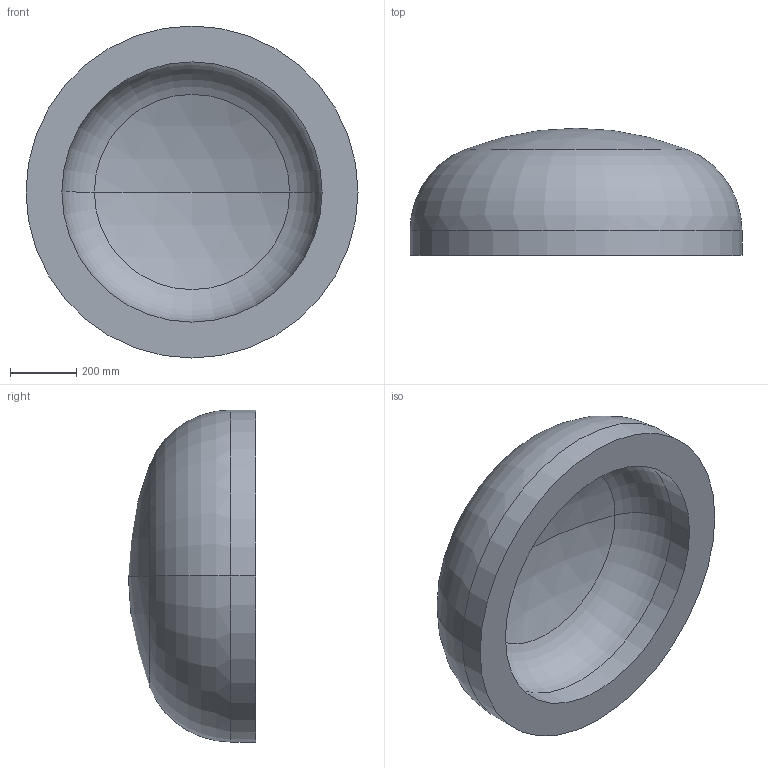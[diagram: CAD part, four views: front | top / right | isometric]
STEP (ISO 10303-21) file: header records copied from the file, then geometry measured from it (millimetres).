
FILE_DESCRIPTION (( 'STEP AP203' ), '1' );
FILE_NAME ('DIN 28013 Korbbogenform_-_Boden DIN 28013 - 1000 x 75 - I - s=108.step', '2016-07-01T08:57:24', ( '' ), ( '' ), 'SwSTEP 2.0', 'SolidWorks 2013', '' );
FILE_SCHEMA (( 'CONFIG_CONTROL_DESIGN' ));
Length unit declared in the file: millimetre
Products named in the file (1): DIN 28013 Korbbogenform_-_Boden DIN 28013 - 1000 x 75 - I - s=108
Bounding box: 1000 x 383.12 x 1000 mm (x, y, z)
Volume: 125697280.9 mm3; surface area: 2654804.6 mm2
Topology: 1 solids, 1 shells, 13 faces, 24 edges, 14 vertices
Faces by surface type: torus 4, cylinder 4, sphere 4, plane 1
Entity records: 407 total; most frequent: DIRECTION 72, CARTESIAN_POINT 52, ORIENTED_EDGE 48, AXIS2_PLACEMENT_3D 34, EDGE_CURVE 24, CIRCLE 20, EDGE_LOOP 14, VERTEX_POINT 14
